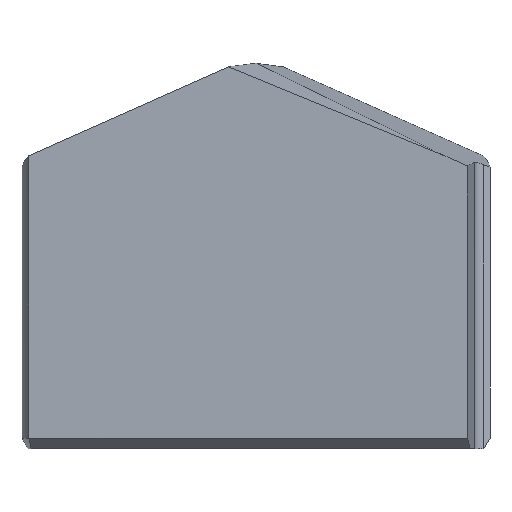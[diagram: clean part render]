
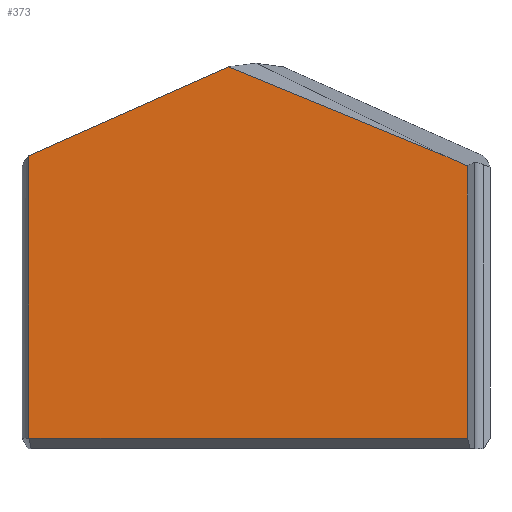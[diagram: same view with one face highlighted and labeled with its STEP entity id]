
A CAD part, top view. The second image highlights one B-rep face of the part: STEP entity #373.
In plain terms, the highlighted planar face has unit normal (0, 0, 1).
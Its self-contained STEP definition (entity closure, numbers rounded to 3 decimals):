
#22 = CARTESIAN_POINT ( 'NONE',  ( -6.552, 0.3, 3.2 ) ) ;
#24 = CARTESIAN_POINT ( 'NONE',  ( -6.552, 0.3, 3.2 ) ) ;
#32 = CARTESIAN_POINT ( 'NONE',  ( 5.417, 8.446, 3.2 ) ) ;
#38 = DIRECTION ( 'NONE',  ( 0., 1., 0. ) ) ;
#61 = EDGE_CURVE ( 'NONE', #242, #181, #604, .T. ) ;
#73 = VECTOR ( 'NONE', #97, 1000. ) ;
#76 = AXIS2_PLACEMENT_3D ( 'NONE', #587, #403, #144 ) ;
#81 = CARTESIAN_POINT ( 'NONE',  ( -6.552, 0., 3.2 ) ) ;
#86 = B_SPLINE_CURVE_WITH_KNOTS ( 'NONE', 3,
 ( #22, #124, #620, #268 ),
 .UNSPECIFIED., .F., .F.,
 ( 4, 4 ),
 ( 0., 0. ),
 .UNSPECIFIED. ) ;
#97 = DIRECTION ( 'NONE',  ( 1., 0., 0. ) ) ;
#102 = ORIENTED_EDGE ( 'NONE', *, *, #569, .T. ) ;
#108 = CARTESIAN_POINT ( 'NONE',  ( -0.782, 11.002, 3.2 ) ) ;
#110 = LINE ( 'NONE', #230, #495 ) ;
#114 = EDGE_CURVE ( 'NONE', #115, #220, #86, .T. ) ;
#115 = VERTEX_POINT ( 'NONE', #24 ) ;
#124 = CARTESIAN_POINT ( 'NONE',  ( -6.55, 0.296, 3.2 ) ) ;
#140 = CARTESIAN_POINT ( 'NONE',  ( 0., 11.35, 3.2 ) ) ;
#144 = DIRECTION ( 'NONE',  ( 1., 0., 0. ) ) ;
#145 = VECTOR ( 'NONE', #234, 1000. ) ;
#177 = EDGE_CURVE ( 'NONE', #181, #481, #415, .T. ) ;
#181 = VERTEX_POINT ( 'NONE', #32 ) ;
#212 = EDGE_CURVE ( 'NONE', #553, #242, #110, .T. ) ;
#220 = VERTEX_POINT ( 'NONE', #436 ) ;
#223 = EDGE_CURVE ( 'NONE', #115, #622, #624, .T. ) ;
#228 = FACE_OUTER_BOUND ( 'NONE', #615, .T. ) ;
#230 = CARTESIAN_POINT ( 'NONE',  ( 6.096, 0., 3.2 ) ) ;
#234 = DIRECTION ( 'NONE',  ( -0.925, 0.381, 0. ) ) ;
#242 = VERTEX_POINT ( 'NONE', #442 ) ;
#255 = ORIENTED_EDGE ( 'NONE', *, *, #212, .T. ) ;
#266 = LINE ( 'NONE', #444, #73 ) ;
#268 = CARTESIAN_POINT ( 'NONE',  ( -6.546, 0.289, 3.2 ) ) ;
#311 = ORIENTED_EDGE ( 'NONE', *, *, #223, .F. ) ;
#312 = VECTOR ( 'NONE', #336, 1000. ) ;
#336 = DIRECTION ( 'NONE',  ( -0.914, -0.407, 0. ) ) ;
#339 = CARTESIAN_POINT ( 'NONE',  ( 6.096, 0.289, 3.2 ) ) ;
#373 = ADVANCED_FACE ( 'NONE', ( #228 ), #590, .T. ) ;
#403 = DIRECTION ( 'NONE',  ( 0., 0., 1. ) ) ;
#415 = LINE ( 'NONE', #425, #145 ) ;
#425 = CARTESIAN_POINT ( 'NONE',  ( 3.763, 9.128, 3.2 ) ) ;
#433 = DIRECTION ( 'NONE',  ( 0., 1., 0. ) ) ;
#436 = CARTESIAN_POINT ( 'NONE',  ( -6.546, 0.289, 3.2 ) ) ;
#438 = ORIENTED_EDGE ( 'NONE', *, *, #61, .T. ) ;
#442 = CARTESIAN_POINT ( 'NONE',  ( 6.096, 8.144, 3.2 ) ) ;
#444 = CARTESIAN_POINT ( 'NONE',  ( 6.374, 0.289, 3.2 ) ) ;
#471 = ORIENTED_EDGE ( 'NONE', *, *, #177, .T. ) ;
#481 = VERTEX_POINT ( 'NONE', #108 ) ;
#494 = LINE ( 'NONE', #140, #312 ) ;
#495 = VECTOR ( 'NONE', #38, 1000. ) ;
#513 = VECTOR ( 'NONE', #433, 1000. ) ;
#515 = DIRECTION ( 'NONE',  ( -0.914, 0.407, 0. ) ) ;
#519 = ORIENTED_EDGE ( 'NONE', *, *, #522, .T. ) ;
#522 = EDGE_CURVE ( 'NONE', #220, #553, #266, .T. ) ;
#535 = ORIENTED_EDGE ( 'NONE', *, *, #114, .T. ) ;
#553 = VERTEX_POINT ( 'NONE', #339 ) ;
#564 = CARTESIAN_POINT ( 'NONE',  ( 4.034, 9.061, 3.2 ) ) ;
#569 = EDGE_CURVE ( 'NONE', #481, #622, #494, .T. ) ;
#587 = CARTESIAN_POINT ( 'NONE',  ( 0., 0., 3.2 ) ) ;
#590 = PLANE ( 'NONE',  #76 ) ;
#594 = VECTOR ( 'NONE', #515, 1000. ) ;
#604 = LINE ( 'NONE', #564, #594 ) ;
#615 = EDGE_LOOP ( 'NONE', ( #438, #471, #102, #311, #535, #519, #255 ) ) ;
#620 = CARTESIAN_POINT ( 'NONE',  ( -6.548, 0.292, 3.2 ) ) ;
#622 = VERTEX_POINT ( 'NONE', #630 ) ;
#624 = LINE ( 'NONE', #81, #513 ) ;
#630 = CARTESIAN_POINT ( 'NONE',  ( -6.552, 8.433, 3.2 ) ) ;
